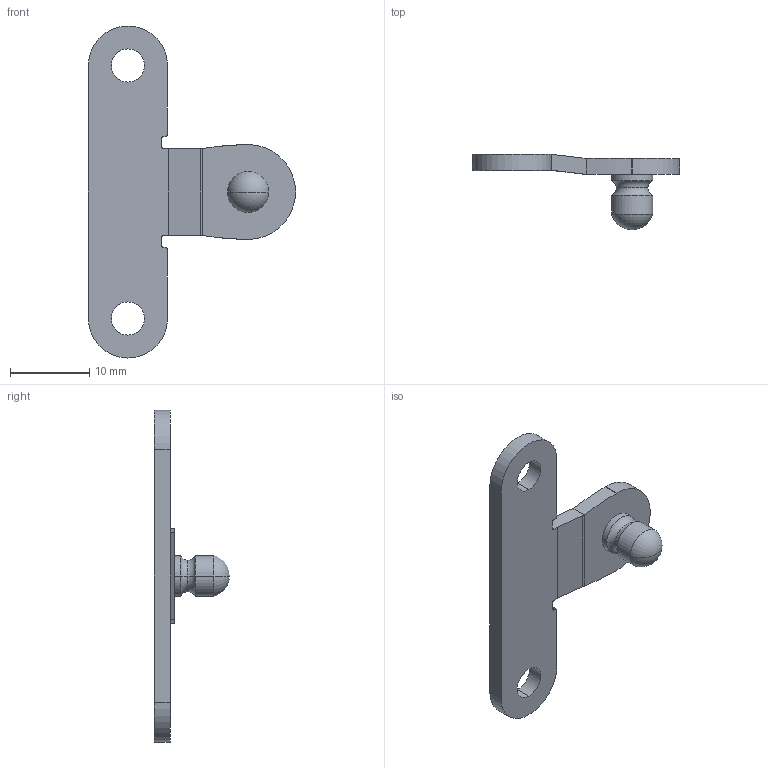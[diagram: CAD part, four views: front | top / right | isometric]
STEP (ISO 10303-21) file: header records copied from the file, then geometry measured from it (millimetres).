
FILE_DESCRIPTION (( 'STEP AP203' ), '1' );
FILE_NAME ('Anschraubwinkel_T-105_Alurahmen_D2659522125~0.step', '2012-05-04T06:18:51', ( 'admin' ), ( 'Hewlett-Packard Company' ), 'SwSTEP 2.0', 'SolidWorks 2011', '' );
FILE_SCHEMA (( 'CONFIG_CONTROL_DESIGN' ));
Length unit declared in the file: millimetre
Products named in the file (1): Anschraubwinkel_T-105_Alurahmen_D2659522125~0
Bounding box: 26.2 x 9.5 x 42 mm (x, y, z)
Volume: 1202.6 mm3; surface area: 1484.4 mm2
Topology: 1 solids, 1 shells, 47 faces, 127 edges, 81 vertices
Faces by surface type: cylinder 26, plane 15, torus 6
Entity records: 1570 total; most frequent: DIRECTION 273, CARTESIAN_POINT 272, ORIENTED_EDGE 250, EDGE_CURVE 125, AXIS2_PLACEMENT_3D 106, VERTEX_POINT 81, LINE 61, VECTOR 61
